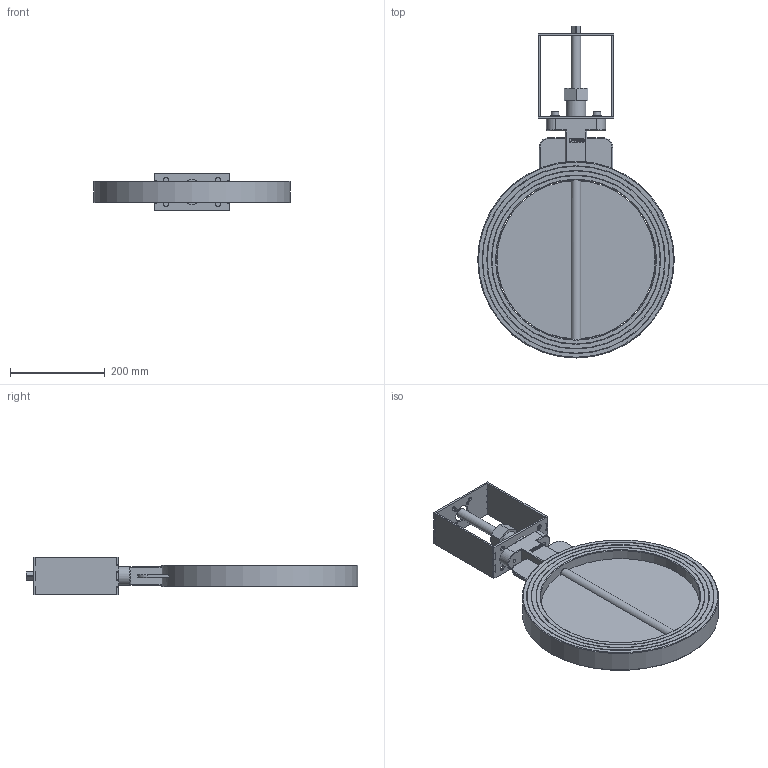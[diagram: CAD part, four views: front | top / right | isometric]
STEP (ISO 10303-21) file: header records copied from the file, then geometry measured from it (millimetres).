
FILE_DESCRIPTION(/* description */ (''),/* implementation_level */ '2;1');
FILE_NAME(/* name */ 'C:\Users\miv\Desktop\Typ 5k DN350\Typ 5k DN350.stp',/* time_stamp */ '2015-09-16T10:01:23+02:00',/* author */ ('Technik-3D'),/* organization */ (''),/* preprocessor_version */ 'ST-DEVELOPER v15.6',/* originating_system */ 'Autodesk Inventor 2015',/* authorisation */ '');
FILE_SCHEMA (('AUTOMOTIVE_DESIGN { 1 0 10303 214 3 1 1 }'));
Length unit declared in the file: millimetre
Products named in the file (13): Gussring DN350; Graphitbuchse d=20; Stopfbuchse d=20 MS; ISO 49 Kappe T1 1 1_4; Welle DN355; DN350 Ronde; Oberteil Konsole F05, F07, ST; Seitenteil F05, F07; Unterteil Konsole F04,05,07 (5k200-R4-STP); Konsole F05-07; DIN 127 - A 10; DIN 912 - M10 x 1,5 x 25 x 21,25; Typ 5k DN350
Bounding box: 415 x 701 x 80 mm (x, y, z)
Volume: 3245869.7 mm3; surface area: 632717.4 mm2
Topology: 15 solids, 15 shells, 416 faces, 1054 edges, 693 vertices
Faces by surface type: plane 218, cylinder 110, bspline 52, cone 26, torus 10
Full cylindrical faces by diameter (mm): 7 x4, 8.376 x2, 9 x4, 10 x2, 11 x4, 12 x2, 16 x2, 20 x4, 20.5 x3, 29.5 x1, 30 x3, 33 x1, 37 x1, 41.5 x1, 52 x1, 334 x1, 337 x1, 355.5 x2, 357.5 x2, 375 x2, 377 x2, 394.5 x2, 396.5 x2, 415 x1
Entity records: 11224 total; most frequent: CARTESIAN_POINT 2665, ORIENTED_EDGE 1654, DIRECTION 1589, EDGE_CURVE 827, VERTEX_POINT 578, AXIS2_PLACEMENT_3D 562, EDGE_LOOP 497, LINE 465
